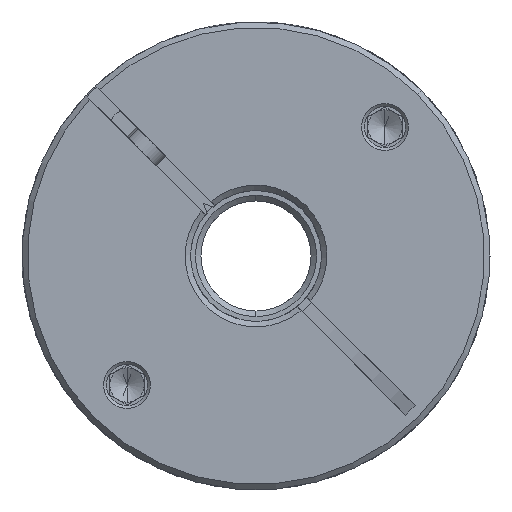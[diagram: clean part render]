
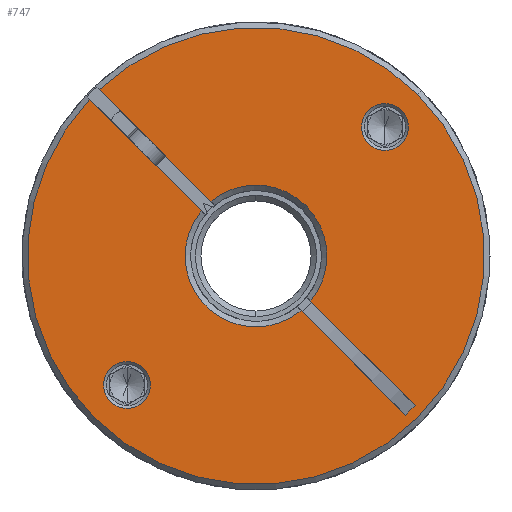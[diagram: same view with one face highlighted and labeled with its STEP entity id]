
A CAD part, front view. The second image highlights one B-rep face of the part: STEP entity #747.
In plain terms, the highlighted planar face has unit normal (0, -1, 0).
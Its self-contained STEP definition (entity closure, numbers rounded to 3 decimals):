
#91 = LINE ( 'NONE', #659, #7431 ) ;
#124 = CIRCLE ( 'NONE', #1248, 3.4 ) ;
#310 = CIRCLE ( 'NONE', #5718, 3.4 ) ;
#623 = CIRCLE ( 'NONE', #6633, 10.3 ) ;
#659 = CARTESIAN_POINT ( 'NONE',  ( 18.988, -67.045, 44.862 ) ) ;
#702 = CIRCLE ( 'NONE', #17474, 10.3 ) ;
#747 = ADVANCED_FACE ( 'NONE', ( #14457, #8192, #8965 ), #19950, .T. ) ;
#1047 = CARTESIAN_POINT ( 'NONE',  ( -2.735, -67.045, 68. ) ) ;
#1188 = DIRECTION ( 'NONE',  ( 0.707, 0., 0.707 ) ) ;
#1248 = AXIS2_PLACEMENT_3D ( 'NONE', #7261, #7408, #17116 ) ;
#1414 = CARTESIAN_POINT ( 'NONE',  ( 16.003, -67.045, 86.738 ) ) ;
#1530 = CARTESIAN_POINT ( 'NONE',  ( 20.741, -67.045, 91.476 ) ) ;
#1619 = ORIENTED_EDGE ( 'NONE', *, *, #9345, .T. ) ;
#1623 = EDGE_CURVE ( 'NONE', #8396, #16290, #11819, .T. ) ;
#1656 = DIRECTION ( 'NONE',  ( 0.707, 0., 0.707 ) ) ;
#1781 = EDGE_CURVE ( 'NONE', #2442, #8928, #8422, .T. ) ;
#1985 = CARTESIAN_POINT ( 'NONE',  ( 5.221, -67.045, 61.458 ) ) ;
#2397 = ORIENTED_EDGE ( 'NONE', *, *, #11714, .T. ) ;
#2442 = VERTEX_POINT ( 'NONE', #1985 ) ;
#2646 = ORIENTED_EDGE ( 'NONE', *, *, #9351, .T. ) ;
#2732 = CIRCLE ( 'NONE', #21306, 3.4 ) ;
#2776 = DIRECTION ( 'NONE',  ( 0., 1., 0. ) ) ;
#2828 = CIRCLE ( 'NONE', #18804, 33.2 ) ;
#2874 = CARTESIAN_POINT ( 'NONE',  ( -19.069, -67.045, 51.666 ) ) ;
#2985 = EDGE_CURVE ( 'NONE', #8396, #13460, #2828, .T. ) ;
#3648 = VERTEX_POINT ( 'NONE', #8626 ) ;
#3953 = CARTESIAN_POINT ( 'NONE',  ( -2.735, -67.045, 68. ) ) ;
#4327 = VERTEX_POINT ( 'NONE', #2874 ) ;
#5398 = EDGE_CURVE ( 'NONE', #6386, #16290, #19482, .T. ) ;
#5648 = DIRECTION ( 'NONE',  ( 0., -1., 0. ) ) ;
#5718 = AXIS2_PLACEMENT_3D ( 'NONE', #1414, #11523, #6331 ) ;
#5726 = DIRECTION ( 'NONE',  ( -0.707, 0., -0.707 ) ) ;
#5779 = VERTEX_POINT ( 'NONE', #7651 ) ;
#5822 = EDGE_CURVE ( 'NONE', #19879, #3648, #124, .T. ) ;
#5923 = ORIENTED_EDGE ( 'NONE', *, *, #2985, .T. ) ;
#5948 = AXIS2_PLACEMENT_3D ( 'NONE', #11729, #16755, #10070 ) ;
#6018 = CARTESIAN_POINT ( 'NONE',  ( -21.473, -67.045, 49.262 ) ) ;
#6093 = LINE ( 'NONE', #20210, #13951 ) ;
#6331 = DIRECTION ( 'NONE',  ( 0.707, 0., 0.707 ) ) ;
#6361 = DIRECTION ( 'NONE',  ( 0.707, 0., -0.707 ) ) ;
#6386 = VERTEX_POINT ( 'NONE', #16210 ) ;
#6626 = CARTESIAN_POINT ( 'NONE',  ( -2.735, -67.045, 68. ) ) ;
#6633 = AXIS2_PLACEMENT_3D ( 'NONE', #17144, #20846, #20488 ) ;
#6892 = AXIS2_PLACEMENT_3D ( 'NONE', #6626, #9998, #16477 ) ;
#7152 = EDGE_LOOP ( 'NONE', ( #11641, #18826 ) ) ;
#7261 = CARTESIAN_POINT ( 'NONE',  ( 16.003, -67.045, 86.738 ) ) ;
#7292 = CARTESIAN_POINT ( 'NONE',  ( -9.277, -67.045, 75.956 ) ) ;
#7306 = DIRECTION ( 'NONE',  ( 0.707, 0., 0.707 ) ) ;
#7408 = DIRECTION ( 'NONE',  ( 0., 1., 0. ) ) ;
#7431 = VECTOR ( 'NONE', #5726, 1000. ) ;
#7492 = AXIS2_PLACEMENT_3D ( 'NONE', #3953, #5648, #17322 ) ;
#7517 = CARTESIAN_POINT ( 'NONE',  ( -2.735, -67.045, 68. ) ) ;
#7651 = CARTESIAN_POINT ( 'NONE',  ( 18.988, -67.045, 44.862 ) ) ;
#7991 = CARTESIAN_POINT ( 'NONE',  ( -2.028, -67.045, 68.707 ) ) ;
#8017 = ORIENTED_EDGE ( 'NONE', *, *, #17973, .T. ) ;
#8192 = FACE_BOUND ( 'NONE', #19114, .T. ) ;
#8348 = EDGE_CURVE ( 'NONE', #13460, #14214, #14646, .T. ) ;
#8396 = VERTEX_POINT ( 'NONE', #11264 ) ;
#8422 = LINE ( 'NONE', #13596, #18300 ) ;
#8626 = CARTESIAN_POINT ( 'NONE',  ( 18.407, -67.045, 89.142 ) ) ;
#8928 = VERTEX_POINT ( 'NONE', #15137 ) ;
#8965 = FACE_OUTER_BOUND ( 'NONE', #16917, .T. ) ;
#9114 = ORIENTED_EDGE ( 'NONE', *, *, #5398, .T. ) ;
#9345 = EDGE_CURVE ( 'NONE', #13713, #2442, #702, .T. ) ;
#9351 = EDGE_CURVE ( 'NONE', #19505, #4327, #11972, .T. ) ;
#9998 = DIRECTION ( 'NONE',  ( 0., 1., 0. ) ) ;
#10070 = DIRECTION ( 'NONE',  ( 0.707, 0., 0.707 ) ) ;
#10475 = ORIENTED_EDGE ( 'NONE', *, *, #11435, .T. ) ;
#10831 = ORIENTED_EDGE ( 'NONE', *, *, #15187, .F. ) ;
#10996 = DIRECTION ( 'NONE',  ( 0.707, 0., 0.707 ) ) ;
#11264 = CARTESIAN_POINT ( 'NONE',  ( -26.908, -67.045, 90.758 ) ) ;
#11435 = EDGE_CURVE ( 'NONE', #17225, #13713, #623, .T. ) ;
#11523 = DIRECTION ( 'NONE',  ( 0., 1., 0. ) ) ;
#11641 = ORIENTED_EDGE ( 'NONE', *, *, #15623, .T. ) ;
#11714 = EDGE_CURVE ( 'NONE', #8928, #5779, #91, .T. ) ;
#11729 = CARTESIAN_POINT ( 'NONE',  ( -2.735, -67.045, 68. ) ) ;
#11819 = LINE ( 'NONE', #19643, #13918 ) ;
#11885 = ORIENTED_EDGE ( 'NONE', *, *, #12255, .T. ) ;
#11972 = CIRCLE ( 'NONE', #17890, 3.4 ) ;
#12255 = EDGE_CURVE ( 'NONE', #14214, #17957, #20188, .T. ) ;
#12275 = ORIENTED_EDGE ( 'NONE', *, *, #8348, .T. ) ;
#12767 = VECTOR ( 'NONE', #16165, 1000. ) ;
#12848 = DIRECTION ( 'NONE',  ( 0., 1., 0. ) ) ;
#13386 = DIRECTION ( 'NONE',  ( 0.707, 0., -0.707 ) ) ;
#13460 = VERTEX_POINT ( 'NONE', #20143 ) ;
#13596 = CARTESIAN_POINT ( 'NONE',  ( -2.028, -67.045, 68.707 ) ) ;
#13713 = VERTEX_POINT ( 'NONE', #14839 ) ;
#13886 = DIRECTION ( 'NONE',  ( 0.707, 0., -0.707 ) ) ;
#13918 = VECTOR ( 'NONE', #6361, 1000. ) ;
#13951 = VECTOR ( 'NONE', #13386, 1000. ) ;
#14075 = LINE ( 'NONE', #7991, #12767 ) ;
#14214 = VERTEX_POINT ( 'NONE', #1530 ) ;
#14457 = FACE_BOUND ( 'NONE', #7152, .T. ) ;
#14494 = CARTESIAN_POINT ( 'NONE',  ( -25.493, -67.045, 92.172 ) ) ;
#14646 = CIRCLE ( 'NONE', #7492, 33.2 ) ;
#14839 = CARTESIAN_POINT ( 'NONE',  ( 4.548, -67.045, 75.283 ) ) ;
#15137 = CARTESIAN_POINT ( 'NONE',  ( 20.402, -67.045, 46.277 ) ) ;
#15187 = EDGE_CURVE ( 'NONE', #6386, #5779, #6093, .T. ) ;
#15623 = EDGE_CURVE ( 'NONE', #3648, #19879, #310, .T. ) ;
#16055 = DIRECTION ( 'NONE',  ( 0.707, 0., 0.707 ) ) ;
#16165 = DIRECTION ( 'NONE',  ( 0.707, 0., -0.707 ) ) ;
#16210 = CARTESIAN_POINT ( 'NONE',  ( 3.807, -67.045, 60.044 ) ) ;
#16290 = VERTEX_POINT ( 'NONE', #18675 ) ;
#16477 = DIRECTION ( 'NONE',  ( 0.707, 0., 0.707 ) ) ;
#16621 = ORIENTED_EDGE ( 'NONE', *, *, #20249, .T. ) ;
#16755 = DIRECTION ( 'NONE',  ( 0., -1., 0. ) ) ;
#16917 = EDGE_LOOP ( 'NONE', ( #21402, #5923, #12275, #11885, #8017, #10475, #1619, #17345, #2397, #10831, #9114 ) ) ;
#17116 = DIRECTION ( 'NONE',  ( 0.707, 0., 0.707 ) ) ;
#17144 = CARTESIAN_POINT ( 'NONE',  ( -2.735, -67.045, 68. ) ) ;
#17225 = VERTEX_POINT ( 'NONE', #7292 ) ;
#17303 = DIRECTION ( 'NONE',  ( 0., -1., 0. ) ) ;
#17322 = DIRECTION ( 'NONE',  ( 0.707, 0., 0.707 ) ) ;
#17345 = ORIENTED_EDGE ( 'NONE', *, *, #1781, .T. ) ;
#17474 = AXIS2_PLACEMENT_3D ( 'NONE', #1047, #12848, #16055 ) ;
#17890 = AXIS2_PLACEMENT_3D ( 'NONE', #19378, #21057, #1188 ) ;
#17957 = VERTEX_POINT ( 'NONE', #14494 ) ;
#17973 = EDGE_CURVE ( 'NONE', #17957, #17225, #14075, .T. ) ;
#18228 = DIRECTION ( 'NONE',  ( 0., -1., 0. ) ) ;
#18300 = VECTOR ( 'NONE', #13886, 1000. ) ;
#18675 = CARTESIAN_POINT ( 'NONE',  ( -10.691, -67.045, 74.542 ) ) ;
#18804 = AXIS2_PLACEMENT_3D ( 'NONE', #19985, #18228, #1656 ) ;
#18826 = ORIENTED_EDGE ( 'NONE', *, *, #5822, .T. ) ;
#18853 = CARTESIAN_POINT ( 'NONE',  ( -23.878, -67.045, 46.858 ) ) ;
#19114 = EDGE_LOOP ( 'NONE', ( #16621, #2646 ) ) ;
#19378 = CARTESIAN_POINT ( 'NONE',  ( -21.473, -67.045, 49.262 ) ) ;
#19482 = CIRCLE ( 'NONE', #6892, 10.3 ) ;
#19505 = VERTEX_POINT ( 'NONE', #18853 ) ;
#19623 = AXIS2_PLACEMENT_3D ( 'NONE', #7517, #17303, #7306 ) ;
#19643 = CARTESIAN_POINT ( 'NONE',  ( -3.442, -67.045, 67.293 ) ) ;
#19879 = VERTEX_POINT ( 'NONE', #21093 ) ;
#19950 = PLANE ( 'NONE',  #5948 ) ;
#19985 = CARTESIAN_POINT ( 'NONE',  ( -2.735, -67.045, 68. ) ) ;
#20143 = CARTESIAN_POINT ( 'NONE',  ( -26.211, -67.045, 44.524 ) ) ;
#20188 = CIRCLE ( 'NONE', #19623, 33.2 ) ;
#20210 = CARTESIAN_POINT ( 'NONE',  ( -3.442, -67.045, 67.293 ) ) ;
#20249 = EDGE_CURVE ( 'NONE', #4327, #19505, #2732, .T. ) ;
#20488 = DIRECTION ( 'NONE',  ( 0.707, 0., 0.707 ) ) ;
#20846 = DIRECTION ( 'NONE',  ( 0., 1., 0. ) ) ;
#21057 = DIRECTION ( 'NONE',  ( 0., 1., 0. ) ) ;
#21093 = CARTESIAN_POINT ( 'NONE',  ( 13.599, -67.045, 84.334 ) ) ;
#21306 = AXIS2_PLACEMENT_3D ( 'NONE', #6018, #2776, #10996 ) ;
#21402 = ORIENTED_EDGE ( 'NONE', *, *, #1623, .F. ) ;
